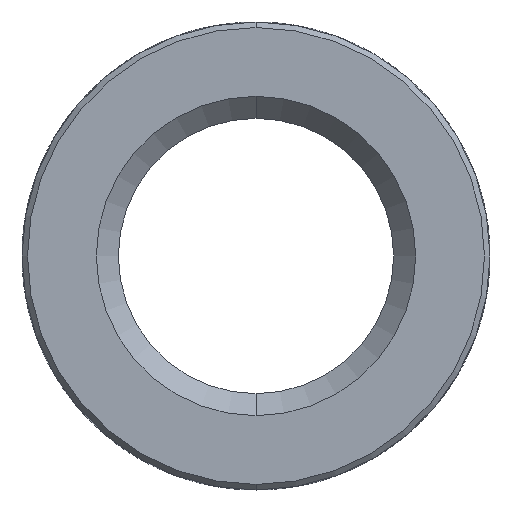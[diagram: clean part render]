
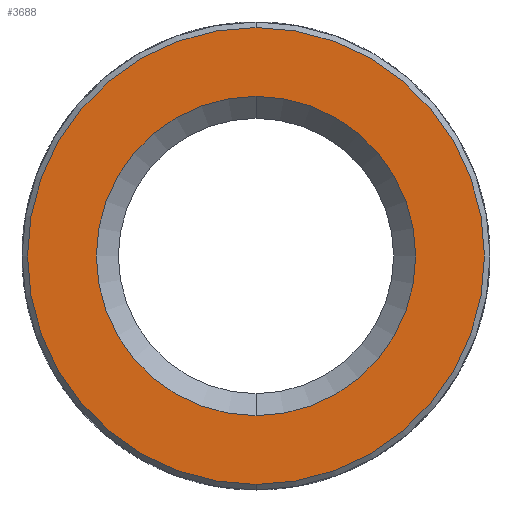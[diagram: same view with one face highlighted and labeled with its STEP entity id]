
A CAD part, front view. The second image highlights one B-rep face of the part: STEP entity #3688.
In plain terms, the highlighted planar face has unit normal (0, -1, 0).
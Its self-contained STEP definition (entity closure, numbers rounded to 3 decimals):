
#194 = VERTEX_POINT ( 'NONE', #3095 ) ;
#361 = DIRECTION ( 'NONE',  ( 0., 0., -1. ) ) ;
#362 = DIRECTION ( 'NONE',  ( 0., 0., -1. ) ) ;
#488 = ORIENTED_EDGE ( 'NONE', *, *, #2766, .T. ) ;
#546 = CIRCLE ( 'NONE', #2721, 2.9 ) ;
#684 = CARTESIAN_POINT ( 'NONE',  ( 0., -5.8, 0. ) ) ;
#802 = CARTESIAN_POINT ( 'NONE',  ( 0., -5.8, 0. ) ) ;
#969 = DIRECTION ( 'NONE',  ( 0., 1., 0. ) ) ;
#1030 = EDGE_LOOP ( 'NONE', ( #2294, #3693 ) ) ;
#1096 = CIRCLE ( 'NONE', #1478, 2.9 ) ;
#1273 = CARTESIAN_POINT ( 'NONE',  ( 0., -5.8, 0. ) ) ;
#1295 = CIRCLE ( 'NONE', #2480, 4.15 ) ;
#1470 = EDGE_CURVE ( 'NONE', #3143, #3467, #546, .T. ) ;
#1478 = AXIS2_PLACEMENT_3D ( 'NONE', #684, #969, #362 ) ;
#1563 = DIRECTION ( 'NONE',  ( 0., -1., 0. ) ) ;
#1663 = VERTEX_POINT ( 'NONE', #3475 ) ;
#1669 = DIRECTION ( 'NONE',  ( 0., 0., -1. ) ) ;
#1782 = ORIENTED_EDGE ( 'NONE', *, *, #3191, .T. ) ;
#1907 = EDGE_LOOP ( 'NONE', ( #488, #1782 ) ) ;
#1929 = CARTESIAN_POINT ( 'NONE',  ( 0., -5.8, 0. ) ) ;
#2165 = PLANE ( 'NONE',  #3027 ) ;
#2294 = ORIENTED_EDGE ( 'NONE', *, *, #3561, .T. ) ;
#2444 = FACE_OUTER_BOUND ( 'NONE', #1907, .T. ) ;
#2480 = AXIS2_PLACEMENT_3D ( 'NONE', #1273, #1563, #361 ) ;
#2521 = CARTESIAN_POINT ( 'NONE',  ( 0., -5.8, 2.9 ) ) ;
#2721 = AXIS2_PLACEMENT_3D ( 'NONE', #1929, #3104, #2800 ) ;
#2766 = EDGE_CURVE ( 'NONE', #194, #1663, #3648, .T. ) ;
#2800 = DIRECTION ( 'NONE',  ( 0., 0., -1. ) ) ;
#2814 = DIRECTION ( 'NONE',  ( 0., -1., 0. ) ) ;
#3027 = AXIS2_PLACEMENT_3D ( 'NONE', #3602, #3071, #3324 ) ;
#3071 = DIRECTION ( 'NONE',  ( 0., -1., 0. ) ) ;
#3073 = AXIS2_PLACEMENT_3D ( 'NONE', #802, #2814, #1669 ) ;
#3095 = CARTESIAN_POINT ( 'NONE',  ( 0., -5.8, 4.15 ) ) ;
#3104 = DIRECTION ( 'NONE',  ( 0., 1., 0. ) ) ;
#3143 = VERTEX_POINT ( 'NONE', #2521 ) ;
#3191 = EDGE_CURVE ( 'NONE', #1663, #194, #1295, .T. ) ;
#3324 = DIRECTION ( 'NONE',  ( 0., 0., -1. ) ) ;
#3348 = FACE_BOUND ( 'NONE', #1030, .T. ) ;
#3467 = VERTEX_POINT ( 'NONE', #3696 ) ;
#3475 = CARTESIAN_POINT ( 'NONE',  ( 0., -5.8, -4.15 ) ) ;
#3561 = EDGE_CURVE ( 'NONE', #3467, #3143, #1096, .T. ) ;
#3602 = CARTESIAN_POINT ( 'NONE',  ( 0., -5.8, 4.25 ) ) ;
#3648 = CIRCLE ( 'NONE', #3073, 4.15 ) ;
#3688 = ADVANCED_FACE ( 'NONE', ( #2444, #3348 ), #2165, .T. ) ;
#3693 = ORIENTED_EDGE ( 'NONE', *, *, #1470, .T. ) ;
#3696 = CARTESIAN_POINT ( 'NONE',  ( 0., -5.8, -2.9 ) ) ;
